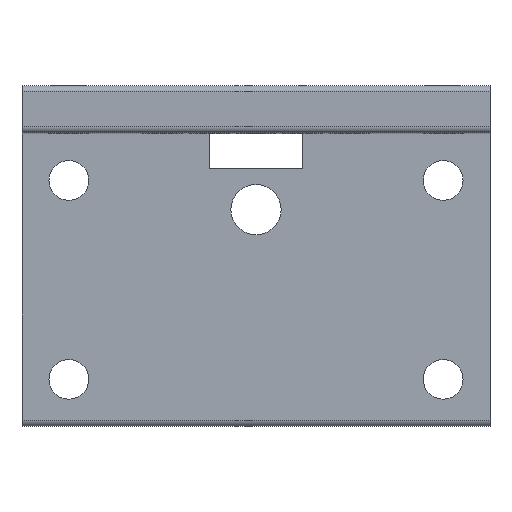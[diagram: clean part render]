
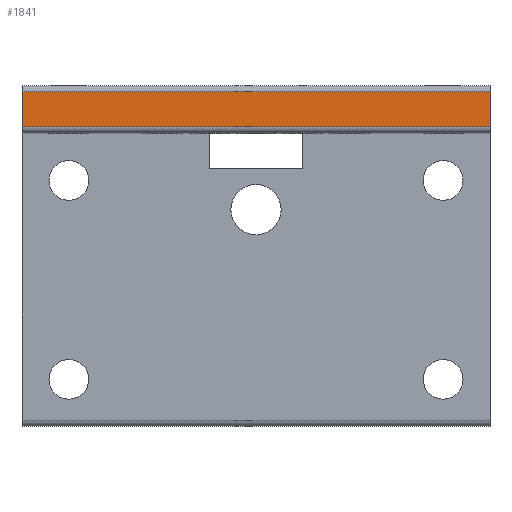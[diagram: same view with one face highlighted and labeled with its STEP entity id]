
A CAD part, top view. The second image highlights one B-rep face of the part: STEP entity #1841.
In plain terms, the highlighted planar face has unit normal (0, 0, 1).
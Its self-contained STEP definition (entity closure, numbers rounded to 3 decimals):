
#32 = PLANE('',#33);
#33 = AXIS2_PLACEMENT_3D('',#34,#35,#36);
#34 = CARTESIAN_POINT('',(-20.,10.5,1.));
#35 = DIRECTION('',(-1.,0.,0.));
#36 = DIRECTION('',(0.,1.,0.));
#57 = VERTEX_POINT('',#58);
#58 = CARTESIAN_POINT('',(-20.,11.,46.));
#73 = CYLINDRICAL_SURFACE('',#74,0.5);
#74 = AXIS2_PLACEMENT_3D('',#75,#76,#77);
#75 = CARTESIAN_POINT('',(-20.,11.,45.5));
#76 = DIRECTION('',(1.,0.,0.));
#77 = DIRECTION('',(0.,-1.,-0.));
#85 = EDGE_CURVE('',#57,#86,#88,.T.);
#86 = VERTEX_POINT('',#87);
#87 = CARTESIAN_POINT('',(-20.,14.,46.));
#88 = SURFACE_CURVE('',#89,(#93,#100),.PCURVE_S1.);
#89 = LINE('',#90,#91);
#90 = CARTESIAN_POINT('',(-20.,12.5,46.));
#91 = VECTOR('',#92,1.);
#92 = DIRECTION('',(0.,1.,0.));
#93 = PCURVE('',#32,#94);
#94 = DEFINITIONAL_REPRESENTATION('',(#95),#99);
#95 = LINE('',#96,#97);
#96 = CARTESIAN_POINT('',(2.,-45.));
#97 = VECTOR('',#98,1.);
#98 = DIRECTION('',(1.,0.));
#99 = ( GEOMETRIC_REPRESENTATION_CONTEXT(2) 
PARAMETRIC_REPRESENTATION_CONTEXT() REPRESENTATION_CONTEXT('2D SPACE',''
  ) );
#100 = PCURVE('',#101,#106);
#101 = PLANE('',#102);
#102 = AXIS2_PLACEMENT_3D('',#103,#104,#105);
#103 = CARTESIAN_POINT('',(0.,12.5,46.));
#104 = DIRECTION('',(0.,0.,1.));
#105 = DIRECTION('',(1.,0.,0.));
#106 = DEFINITIONAL_REPRESENTATION('',(#107),#111);
#107 = LINE('',#108,#109);
#108 = CARTESIAN_POINT('',(-20.,0.));
#109 = VECTOR('',#110,1.);
#110 = DIRECTION('',(0.,1.));
#111 = ( GEOMETRIC_REPRESENTATION_CONTEXT(2) 
PARAMETRIC_REPRESENTATION_CONTEXT() REPRESENTATION_CONTEXT('2D SPACE',''
  ) );
#130 = CYLINDRICAL_SURFACE('',#131,0.5);
#131 = AXIS2_PLACEMENT_3D('',#132,#133,#134);
#132 = CARTESIAN_POINT('',(-20.,14.,45.5));
#133 = DIRECTION('',(1.,0.,0.));
#134 = DIRECTION('',(0.,0.,1.));
#382 = PLANE('',#383);
#383 = AXIS2_PLACEMENT_3D('',#384,#385,#386);
#384 = CARTESIAN_POINT('',(20.,10.5,1.));
#385 = DIRECTION('',(-1.,0.,0.));
#386 = DIRECTION('',(0.,1.,0.));
#1519 = EDGE_CURVE('',#57,#1520,#1522,.T.);
#1520 = VERTEX_POINT('',#1521);
#1521 = CARTESIAN_POINT('',(20.,11.,46.));
#1522 = SURFACE_CURVE('',#1523,(#1527,#1534),.PCURVE_S1.);
#1523 = LINE('',#1524,#1525);
#1524 = CARTESIAN_POINT('',(-20.,11.,46.));
#1525 = VECTOR('',#1526,1.);
#1526 = DIRECTION('',(1.,0.,0.));
#1527 = PCURVE('',#73,#1528);
#1528 = DEFINITIONAL_REPRESENTATION('',(#1529),#1533);
#1529 = LINE('',#1530,#1531);
#1530 = CARTESIAN_POINT('',(-1.571,0.));
#1531 = VECTOR('',#1532,1.);
#1532 = DIRECTION('',(-0.,1.));
#1533 = ( GEOMETRIC_REPRESENTATION_CONTEXT(2) 
PARAMETRIC_REPRESENTATION_CONTEXT() REPRESENTATION_CONTEXT('2D SPACE',''
  ) );
#1534 = PCURVE('',#101,#1535);
#1535 = DEFINITIONAL_REPRESENTATION('',(#1536),#1540);
#1536 = LINE('',#1537,#1538);
#1537 = CARTESIAN_POINT('',(-20.,-1.5));
#1538 = VECTOR('',#1539,1.);
#1539 = DIRECTION('',(1.,0.));
#1540 = ( GEOMETRIC_REPRESENTATION_CONTEXT(2) 
PARAMETRIC_REPRESENTATION_CONTEXT() REPRESENTATION_CONTEXT('2D SPACE',''
  ) );
#1841 = ADVANCED_FACE('',(#1842),#101,.T.);
#1842 = FACE_BOUND('',#1843,.T.);
#1843 = EDGE_LOOP('',(#1844,#1845,#1846,#1869));
#1844 = ORIENTED_EDGE('',*,*,#85,.F.);
#1845 = ORIENTED_EDGE('',*,*,#1519,.T.);
#1846 = ORIENTED_EDGE('',*,*,#1847,.T.);
#1847 = EDGE_CURVE('',#1520,#1848,#1850,.T.);
#1848 = VERTEX_POINT('',#1849);
#1849 = CARTESIAN_POINT('',(20.,14.,46.));
#1850 = SURFACE_CURVE('',#1851,(#1855,#1862),.PCURVE_S1.);
#1851 = LINE('',#1852,#1853);
#1852 = CARTESIAN_POINT('',(20.,12.5,46.));
#1853 = VECTOR('',#1854,1.);
#1854 = DIRECTION('',(0.,1.,0.));
#1855 = PCURVE('',#101,#1856);
#1856 = DEFINITIONAL_REPRESENTATION('',(#1857),#1861);
#1857 = LINE('',#1858,#1859);
#1858 = CARTESIAN_POINT('',(20.,0.));
#1859 = VECTOR('',#1860,1.);
#1860 = DIRECTION('',(0.,1.));
#1861 = ( GEOMETRIC_REPRESENTATION_CONTEXT(2) 
PARAMETRIC_REPRESENTATION_CONTEXT() REPRESENTATION_CONTEXT('2D SPACE',''
  ) );
#1862 = PCURVE('',#382,#1863);
#1863 = DEFINITIONAL_REPRESENTATION('',(#1864),#1868);
#1864 = LINE('',#1865,#1866);
#1865 = CARTESIAN_POINT('',(2.,-45.));
#1866 = VECTOR('',#1867,1.);
#1867 = DIRECTION('',(1.,0.));
#1868 = ( GEOMETRIC_REPRESENTATION_CONTEXT(2) 
PARAMETRIC_REPRESENTATION_CONTEXT() REPRESENTATION_CONTEXT('2D SPACE',''
  ) );
#1869 = ORIENTED_EDGE('',*,*,#1870,.F.);
#1870 = EDGE_CURVE('',#86,#1848,#1871,.T.);
#1871 = SURFACE_CURVE('',#1872,(#1876,#1883),.PCURVE_S1.);
#1872 = LINE('',#1873,#1874);
#1873 = CARTESIAN_POINT('',(-20.,14.,46.));
#1874 = VECTOR('',#1875,1.);
#1875 = DIRECTION('',(1.,0.,0.));
#1876 = PCURVE('',#101,#1877);
#1877 = DEFINITIONAL_REPRESENTATION('',(#1878),#1882);
#1878 = LINE('',#1879,#1880);
#1879 = CARTESIAN_POINT('',(-20.,1.5));
#1880 = VECTOR('',#1881,1.);
#1881 = DIRECTION('',(1.,0.));
#1882 = ( GEOMETRIC_REPRESENTATION_CONTEXT(2) 
PARAMETRIC_REPRESENTATION_CONTEXT() REPRESENTATION_CONTEXT('2D SPACE',''
  ) );
#1883 = PCURVE('',#130,#1884);
#1884 = DEFINITIONAL_REPRESENTATION('',(#1885),#1889);
#1885 = LINE('',#1886,#1887);
#1886 = CARTESIAN_POINT('',(-0.,0.));
#1887 = VECTOR('',#1888,1.);
#1888 = DIRECTION('',(-0.,1.));
#1889 = ( GEOMETRIC_REPRESENTATION_CONTEXT(2) 
PARAMETRIC_REPRESENTATION_CONTEXT() REPRESENTATION_CONTEXT('2D SPACE',''
  ) );
